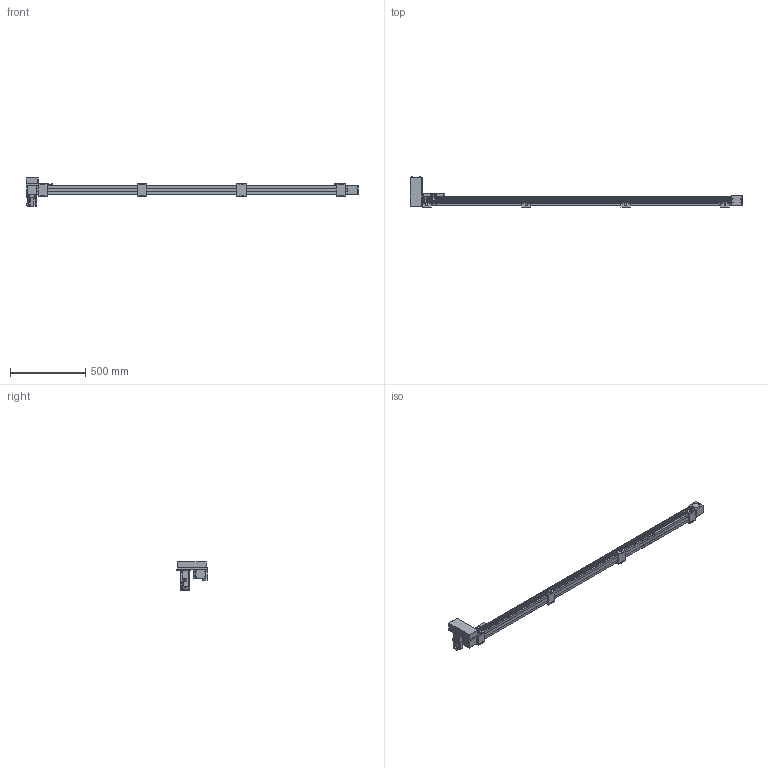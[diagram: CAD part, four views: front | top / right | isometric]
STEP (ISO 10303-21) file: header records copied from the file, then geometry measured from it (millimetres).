
FILE_DESCRIPTION(/* description */ ('STEP AP214'),/* implementation_level */ '2;1');
FILE_NAME(/* name */ 'SK60-P13-S1900-RU-T40-C1-N(0)',/* time_stamp */ '2023-04-06T05:04:50+02:00',/* author */ ('License CC BY-ND 4.0'),/* organization */ ('CADENAS'),/* preprocessor_version */ 'ST-DEVELOPER v19.3',/* originating_system */ 'PARTsolutions',/* authorisation */ ' ');
FILE_SCHEMA (('AUTOMOTIVE_DESIGN {1 0 10303 214 3 1 1}'));
Length unit declared in the file: millimetre
Products named in the file (10): SK60-P13-S1900-RU-T40-C1-N(0); PSC140-sensor; SK60-S450_seat; SK60-S450-BL-C1_slider; SK60_body3; SK60_body6; SK60-BL_body2; T40-p1; SK60-RU_fb; SK60-S1900-RU-C1_body
Assembly tree (18 placements, depth 2):
  SK60-P13-S1900-RU-T40-C1-N(0)
    PSC140-sensor  x3
    SK60-S450_seat  x4
    SK60-S450-BL-C1_slider
    SK60_body3  x3
    SK60_body6  x2
    SK60-BL_body2  x2
    T40-p1
    SK60-RU_fb
    SK60-S1900-RU-C1_body
Bounding box: 2205.5 x 201 x 189.7 mm (x, y, z)
Volume: 8666807.7 mm3; surface area: 1036063.9 mm2
Topology: 18 solids, 18 shells, 898 faces, 2244 edges, 1477 vertices
Faces by surface type: plane 572, cylinder 294, cone 30, torus 2
Full cylindrical faces by diameter (mm): 2.8 x3, 3.3 x4, 4 x2, 4.5 x30, 4.6 x3, 4.917 x24, 5 x6, 5.478 x4, 5.5 x27, 6.5 x8, 7 x2, 8 x4, 8.5 x4, 9.988 x4, 10 x16, 14 x1, 47 x3, 50 x2
Entity records: 18671 total; most frequent: DIRECTION 3188, CARTESIAN_POINT 3152, ORIENTED_EDGE 2940, EDGE_CURVE 1470, AXIS2_PLACEMENT_3D 1070, LINE 1048, VECTOR 1048, VERTEX_POINT 1034
